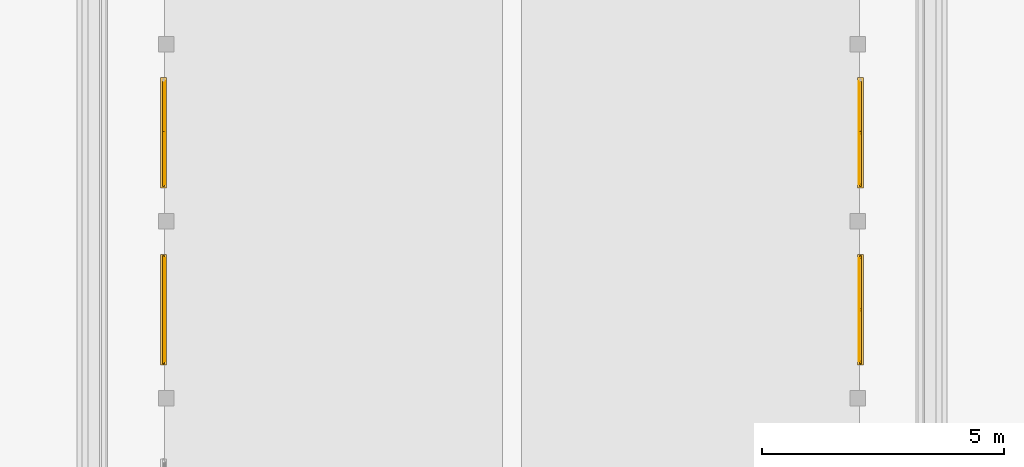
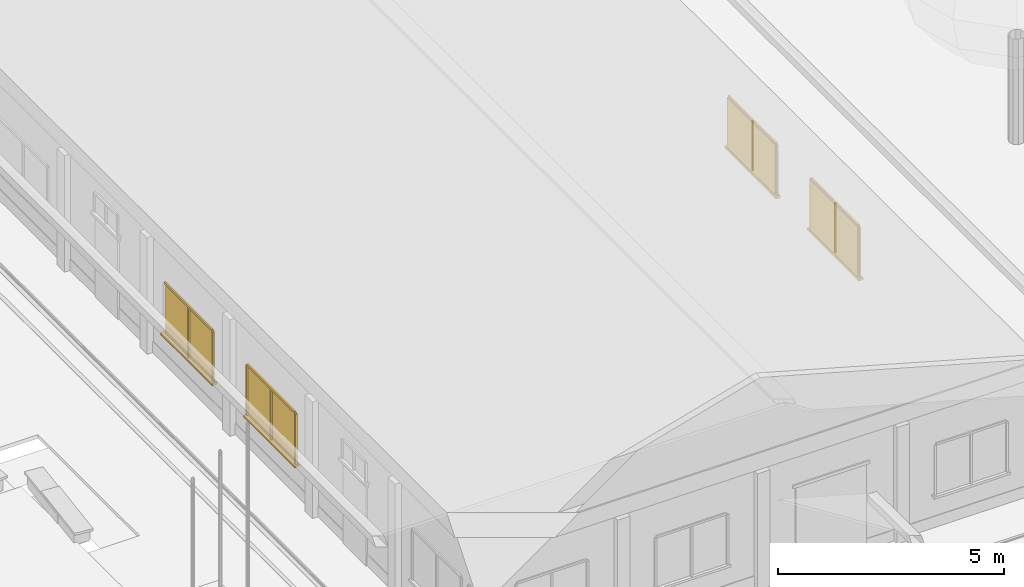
# One storey, part 54 of 177: 22 windows.
"""IFC4 building model written with IfcOpenShell, lengths in metres."""

from ifc_helpers import new_model, si_unit, origin, origin_with_axes, place, context, subcontext, project, spatial, triangles, element, save


model = new_model("IFC4")

# Units and contexts
model_context = context("Model", 3, precision=1e-05, world=origin_with_axes())
body_context = subcontext(model_context, "Body", "Model", "MODEL_VIEW")
ifc_project = project(units=[si_unit("LENGTHUNIT", "METRE"), si_unit("AREAUNIT", "SQUARE_METRE"), si_unit("VOLUMEUNIT", "CUBIC_METRE"), si_unit("PLANEANGLEUNIT", "RADIAN")], contexts=[model_context])

# Site, building, storey
site_placement = place(None, origin_with_axes())
site = spatial("IfcSite", under=ifc_project, at=site_placement, Name="Predio Los Mangos - Morales, San Martín", CompositionType="ELEMENT")
building_placement = place(site_placement, origin())
building = spatial("IfcBuilding", under=site, at=building_placement, Name="Hogar de Refugio Temporal", CompositionType="ELEMENT")
storey_placement = place(building_placement, origin())
storey = spatial("IfcBuildingStorey", under=building, at=storey_placement, Name="NIVEL 1 (NPT +0.00)", CompositionType="ELEMENT", Elevation=0.0)

# Windows
window_1_placement = place(storey_placement, origin())
element("IfcWindow", 1, at=window_1_placement, inside=storey, Name="E-05_v2_vid", ObjectType="Ventana", PredefinedType="WINDOW", context=body_context, shape_type="Tessellation", body=[
    triangles([(45.26, 65.9941, 1.05), (45.28, 65.9941, 1.05), (45.28, 68.1184, 1.05), (45.26, 68.1184, 1.05), (45.26, 65.9941, 2.4), (45.28, 65.9941, 2.4), (45.28, 68.1184, 2.4), (45.26, 68.1184, 2.4)], [[1, 4, 3], [1, 3, 2], [5, 6, 7], [5, 7, 8], [1, 2, 6], [1, 6, 5], [2, 3, 7], [2, 7, 6], [3, 4, 8], [3, 8, 7], [4, 1, 5], [4, 5, 8]]),
])
window_2_placement = place(storey_placement, origin())
element("IfcWindow", 2, at=window_2_placement, inside=storey, Name="E-05_v2_m", ObjectType="Ventana", PredefinedType="WINDOW", context=body_context, shape_type="Tessellation", body=[
    triangles([(45.22, 65.9441, 1.05), (45.26, 65.9441, 1.05), (45.26, 65.9941, 1.05), (45.22, 65.9941, 1.05), (45.22, 65.9441, 2.4), (45.26, 65.9441, 2.4), (45.26, 65.9941, 2.4), (45.22, 65.9941, 2.4)], [[1, 4, 3], [1, 3, 2], [5, 6, 7], [5, 7, 8], [1, 2, 6], [1, 6, 5], [2, 3, 7], [2, 7, 6], [3, 4, 8], [3, 8, 7], [4, 1, 5], [4, 5, 8]]),
])
window_3_placement = place(storey_placement, origin())
element("IfcWindow", 3, at=window_3_placement, inside=storey, Name="E-05_v2_m", ObjectType="Ventana", PredefinedType="WINDOW", context=body_context, shape_type="Tessellation", body=[
    triangles([(45.22, 68.1184, 1.05), (45.26, 68.1184, 1.05), (45.26, 68.1684, 1.05), (45.22, 68.1684, 1.05), (45.22, 68.1184, 2.4), (45.26, 68.1184, 2.4), (45.26, 68.1684, 2.4), (45.22, 68.1684, 2.4)], [[1, 4, 3], [1, 3, 2], [5, 6, 7], [5, 7, 8], [1, 2, 6], [1, 6, 5], [2, 3, 7], [2, 7, 6], [3, 4, 8], [3, 8, 7], [4, 1, 5], [4, 5, 8]]),
])
window_4_placement = place(storey_placement, origin())
element("IfcWindow", 4, at=window_4_placement, inside=storey, Name="E-05_v2_m", ObjectType="Ventana", PredefinedType="WINDOW", context=body_context, shape_type="Tessellation", body=[
    triangles([(45.22, 65.9941, 2.4), (45.26, 65.9941, 2.4), (45.26, 68.1184, 2.4), (45.22, 68.1184, 2.4), (45.22, 65.9941, 2.45), (45.26, 65.9941, 2.45), (45.26, 68.1184, 2.45), (45.22, 68.1184, 2.45)], [[1, 4, 3], [1, 3, 2], [5, 6, 7], [5, 7, 8], [1, 2, 6], [1, 6, 5], [2, 3, 7], [2, 7, 6], [3, 4, 8], [3, 8, 7], [4, 1, 5], [4, 5, 8]]),
])
window_5_placement = place(storey_placement, origin())
element("IfcWindow", 5, at=window_5_placement, inside=storey, Name="E-05_v2_m", ObjectType="Ventana", PredefinedType="WINDOW", context=body_context, shape_type="Tessellation", body=[
    triangles([(45.22, 67.0312, 1.05), (45.26, 67.0312, 1.05), (45.26, 67.0813, 1.05), (45.22, 67.0813, 1.05), (45.22, 67.0312, 2.4), (45.26, 67.0312, 2.4), (45.26, 67.0813, 2.4), (45.22, 67.0813, 2.4)], [[1, 4, 3], [1, 3, 2], [5, 6, 7], [5, 7, 8], [1, 2, 6], [1, 6, 5], [2, 3, 7], [2, 7, 6], [3, 4, 8], [3, 8, 7], [4, 1, 5], [4, 5, 8]]),
])
window_6_placement = place(storey_placement, origin())
element("IfcWindow", 6, at=window_6_placement, inside=storey, Name="E-05_v2_alf", ObjectType="Ventana", PredefinedType="WINDOW", context=body_context, shape_type="Tessellation", body=[
    triangles([(45.3, 65.9141, 0.99), (45.18, 65.9141, 0.99), (45.18, 68.1984, 0.99), (45.3, 68.1984, 0.99), (45.3, 65.9141, 1.05), (45.18, 65.9141, 1.05), (45.18, 68.1984, 1.05), (45.3, 68.1984, 1.05)], [[1, 4, 3], [1, 3, 2], [5, 6, 7], [5, 7, 8], [1, 2, 6], [1, 6, 5], [2, 3, 7], [2, 7, 6], [3, 4, 8], [3, 8, 7], [4, 1, 5], [4, 5, 8]]),
])
window_7_placement = place(storey_placement, origin())
element("IfcWindow", 7, at=window_7_placement, inside=storey, Name="E-05_v3_vid", ObjectType="Ventana", PredefinedType="WINDOW", context=body_context, shape_type="Tessellation", body=[
    triangles([(45.26, 69.6566, 1.05), (45.28, 69.6566, 1.05), (45.28, 71.7809, 1.05), (45.26, 71.7809, 1.05), (45.26, 69.6566, 2.4), (45.28, 69.6566, 2.4), (45.28, 71.7809, 2.4), (45.26, 71.7809, 2.4)], [[1, 4, 3], [1, 3, 2], [5, 6, 7], [5, 7, 8], [1, 2, 6], [1, 6, 5], [2, 3, 7], [2, 7, 6], [3, 4, 8], [3, 8, 7], [4, 1, 5], [4, 5, 8]]),
])
window_8_placement = place(storey_placement, origin())
element("IfcWindow", 8, at=window_8_placement, inside=storey, Name="E-05_v3_m", ObjectType="Ventana", PredefinedType="WINDOW", context=body_context, shape_type="Tessellation", body=[
    triangles([(45.22, 69.6066, 1.05), (45.26, 69.6066, 1.05), (45.26, 69.6566, 1.05), (45.22, 69.6566, 1.05), (45.22, 69.6066, 2.4), (45.26, 69.6066, 2.4), (45.26, 69.6566, 2.4), (45.22, 69.6566, 2.4)], [[1, 4, 3], [1, 3, 2], [5, 6, 7], [5, 7, 8], [1, 2, 6], [1, 6, 5], [2, 3, 7], [2, 7, 6], [3, 4, 8], [3, 8, 7], [4, 1, 5], [4, 5, 8]]),
])
window_9_placement = place(storey_placement, origin())
element("IfcWindow", 9, at=window_9_placement, inside=storey, Name="E-05_v3_m", ObjectType="Ventana", PredefinedType="WINDOW", context=body_context, shape_type="Tessellation", body=[
    triangles([(45.22, 69.6566, 2.4), (45.26, 69.6566, 2.4), (45.26, 71.7809, 2.4), (45.22, 71.7809, 2.4), (45.22, 69.6566, 2.45), (45.26, 69.6566, 2.45), (45.26, 71.7809, 2.45), (45.22, 71.7809, 2.45)], [[1, 4, 3], [1, 3, 2], [5, 6, 7], [5, 7, 8], [1, 2, 6], [1, 6, 5], [2, 3, 7], [2, 7, 6], [3, 4, 8], [3, 8, 7], [4, 1, 5], [4, 5, 8]]),
])
window_10_placement = place(storey_placement, origin())
element("IfcWindow", 10, at=window_10_placement, inside=storey, Name="E-05_v3_m", ObjectType="Ventana", PredefinedType="WINDOW", context=body_context, shape_type="Tessellation", body=[
    triangles([(45.22, 70.6937, 1.05), (45.26, 70.6937, 1.05), (45.26, 70.7438, 1.05), (45.22, 70.7438, 1.05), (45.22, 70.6937, 2.4), (45.26, 70.6937, 2.4), (45.26, 70.7438, 2.4), (45.22, 70.7438, 2.4)], [[1, 4, 3], [1, 3, 2], [5, 6, 7], [5, 7, 8], [1, 2, 6], [1, 6, 5], [2, 3, 7], [2, 7, 6], [3, 4, 8], [3, 8, 7], [4, 1, 5], [4, 5, 8]]),
])
window_11_placement = place(storey_placement, origin())
element("IfcWindow", 11, at=window_11_placement, inside=storey, Name="E-05_v3_alf", ObjectType="Ventana", PredefinedType="WINDOW", context=body_context, shape_type="Tessellation", body=[
    triangles([(45.3, 69.5766, 0.99), (45.18, 69.5766, 0.99), (45.18, 71.8609, 0.99), (45.3, 71.8609, 0.99), (45.3, 69.5766, 1.05), (45.18, 69.5766, 1.05), (45.18, 71.8609, 1.05), (45.3, 71.8609, 1.05)], [[1, 4, 3], [1, 3, 2], [5, 6, 7], [5, 7, 8], [1, 2, 6], [1, 6, 5], [2, 3, 7], [2, 7, 6], [3, 4, 8], [3, 8, 7], [4, 1, 5], [4, 5, 8]]),
])
window_12_placement = place(storey_placement, origin())
element("IfcWindow", 12, at=window_12_placement, inside=storey, Name="E-05_v2_vid", ObjectType="Ventana", PredefinedType="WINDOW", context=body_context, shape_type="Tessellation", body=[
    triangles([(59.62, 65.9941, 1.05), (59.64, 65.9941, 1.05), (59.64, 68.1184, 1.05), (59.62, 68.1184, 1.05), (59.62, 65.9941, 2.4), (59.64, 65.9941, 2.4), (59.64, 68.1184, 2.4), (59.62, 68.1184, 2.4)], [[1, 4, 3], [1, 3, 2], [5, 6, 7], [5, 7, 8], [1, 2, 6], [1, 6, 5], [2, 3, 7], [2, 7, 6], [3, 4, 8], [3, 8, 7], [4, 1, 5], [4, 5, 8]]),
])
window_13_placement = place(storey_placement, origin())
element("IfcWindow", 13, at=window_13_placement, inside=storey, Name="E-05_v2_m", ObjectType="Ventana", PredefinedType="WINDOW", context=body_context, shape_type="Tessellation", body=[
    triangles([(59.64, 65.9441, 1.05), (59.68, 65.9441, 1.05), (59.68, 65.9941, 1.05), (59.64, 65.9941, 1.05), (59.64, 65.9441, 2.4), (59.68, 65.9441, 2.4), (59.68, 65.9941, 2.4), (59.64, 65.9941, 2.4)], [[1, 4, 3], [1, 3, 2], [5, 6, 7], [5, 7, 8], [1, 2, 6], [1, 6, 5], [2, 3, 7], [2, 7, 6], [3, 4, 8], [3, 8, 7], [4, 1, 5], [4, 5, 8]]),
])
window_14_placement = place(storey_placement, origin())
element("IfcWindow", 14, at=window_14_placement, inside=storey, Name="E-05_v2_m", ObjectType="Ventana", PredefinedType="WINDOW", context=body_context, shape_type="Tessellation", body=[
    triangles([(59.64, 68.1184, 1.05), (59.68, 68.1184, 1.05), (59.68, 68.1684, 1.05), (59.64, 68.1684, 1.05), (59.64, 68.1184, 2.4), (59.68, 68.1184, 2.4), (59.68, 68.1684, 2.4), (59.64, 68.1684, 2.4)], [[1, 4, 3], [1, 3, 2], [5, 6, 7], [5, 7, 8], [1, 2, 6], [1, 6, 5], [2, 3, 7], [2, 7, 6], [3, 4, 8], [3, 8, 7], [4, 1, 5], [4, 5, 8]]),
])
window_15_placement = place(storey_placement, origin())
element("IfcWindow", 15, at=window_15_placement, inside=storey, Name="E-05_v2_m", ObjectType="Ventana", PredefinedType="WINDOW", context=body_context, shape_type="Tessellation", body=[
    triangles([(59.64, 65.9941, 2.4), (59.68, 65.9941, 2.4), (59.68, 68.1184, 2.4), (59.64, 68.1184, 2.4), (59.64, 65.9941, 2.45), (59.68, 65.9941, 2.45), (59.68, 68.1184, 2.45), (59.64, 68.1184, 2.45)], [[1, 4, 3], [1, 3, 2], [5, 6, 7], [5, 7, 8], [1, 2, 6], [1, 6, 5], [2, 3, 7], [2, 7, 6], [3, 4, 8], [3, 8, 7], [4, 1, 5], [4, 5, 8]]),
])
window_16_placement = place(storey_placement, origin())
element("IfcWindow", 16, at=window_16_placement, inside=storey, Name="E-05_v2_m", ObjectType="Ventana", PredefinedType="WINDOW", context=body_context, shape_type="Tessellation", body=[
    triangles([(59.64, 67.0312, 1.05), (59.68, 67.0312, 1.05), (59.68, 67.0813, 1.05), (59.64, 67.0813, 1.05), (59.64, 67.0312, 2.4), (59.68, 67.0312, 2.4), (59.68, 67.0813, 2.4), (59.64, 67.0813, 2.4)], [[1, 4, 3], [1, 3, 2], [5, 6, 7], [5, 7, 8], [1, 2, 6], [1, 6, 5], [2, 3, 7], [2, 7, 6], [3, 4, 8], [3, 8, 7], [4, 1, 5], [4, 5, 8]]),
])
window_17_placement = place(storey_placement, origin())
element("IfcWindow", 17, at=window_17_placement, inside=storey, Name="E-05_v2_alf", ObjectType="Ventana", PredefinedType="WINDOW", context=body_context, shape_type="Tessellation", body=[
    triangles([(59.6, 65.9141, 0.99), (59.72, 65.9141, 0.99), (59.72, 68.1984, 0.99), (59.6, 68.1984, 0.99), (59.6, 65.9141, 1.05), (59.72, 65.9141, 1.05), (59.72, 68.1984, 1.05), (59.6, 68.1984, 1.05)], [[1, 4, 3], [1, 3, 2], [5, 6, 7], [5, 7, 8], [1, 2, 6], [1, 6, 5], [2, 3, 7], [2, 7, 6], [3, 4, 8], [3, 8, 7], [4, 1, 5], [4, 5, 8]]),
])
window_18_placement = place(storey_placement, origin())
element("IfcWindow", 18, at=window_18_placement, inside=storey, Name="E-05_v3_vid", ObjectType="Ventana", PredefinedType="WINDOW", context=body_context, shape_type="Tessellation", body=[
    triangles([(59.62, 69.6566, 1.05), (59.64, 69.6566, 1.05), (59.64, 71.7809, 1.05), (59.62, 71.7809, 1.05), (59.62, 69.6566, 2.4), (59.64, 69.6566, 2.4), (59.64, 71.7809, 2.4), (59.62, 71.7809, 2.4)], [[1, 4, 3], [1, 3, 2], [5, 6, 7], [5, 7, 8], [1, 2, 6], [1, 6, 5], [2, 3, 7], [2, 7, 6], [3, 4, 8], [3, 8, 7], [4, 1, 5], [4, 5, 8]]),
])
window_19_placement = place(storey_placement, origin())
element("IfcWindow", 19, at=window_19_placement, inside=storey, Name="E-05_v3_m", ObjectType="Ventana", PredefinedType="WINDOW", context=body_context, shape_type="Tessellation", body=[
    triangles([(59.64, 69.6066, 1.05), (59.68, 69.6066, 1.05), (59.68, 69.6566, 1.05), (59.64, 69.6566, 1.05), (59.64, 69.6066, 2.4), (59.68, 69.6066, 2.4), (59.68, 69.6566, 2.4), (59.64, 69.6566, 2.4)], [[1, 4, 3], [1, 3, 2], [5, 6, 7], [5, 7, 8], [1, 2, 6], [1, 6, 5], [2, 3, 7], [2, 7, 6], [3, 4, 8], [3, 8, 7], [4, 1, 5], [4, 5, 8]]),
])
window_20_placement = place(storey_placement, origin())
element("IfcWindow", 20, at=window_20_placement, inside=storey, Name="E-05_v3_m", ObjectType="Ventana", PredefinedType="WINDOW", context=body_context, shape_type="Tessellation", body=[
    triangles([(59.64, 69.6566, 2.4), (59.68, 69.6566, 2.4), (59.68, 71.7809, 2.4), (59.64, 71.7809, 2.4), (59.64, 69.6566, 2.45), (59.68, 69.6566, 2.45), (59.68, 71.7809, 2.45), (59.64, 71.7809, 2.45)], [[1, 4, 3], [1, 3, 2], [5, 6, 7], [5, 7, 8], [1, 2, 6], [1, 6, 5], [2, 3, 7], [2, 7, 6], [3, 4, 8], [3, 8, 7], [4, 1, 5], [4, 5, 8]]),
])
window_21_placement = place(storey_placement, origin())
element("IfcWindow", 21, at=window_21_placement, inside=storey, Name="E-05_v3_m", ObjectType="Ventana", PredefinedType="WINDOW", context=body_context, shape_type="Tessellation", body=[
    triangles([(59.64, 70.6937, 1.05), (59.68, 70.6937, 1.05), (59.68, 70.7438, 1.05), (59.64, 70.7438, 1.05), (59.64, 70.6937, 2.4), (59.68, 70.6937, 2.4), (59.68, 70.7438, 2.4), (59.64, 70.7438, 2.4)], [[1, 4, 3], [1, 3, 2], [5, 6, 7], [5, 7, 8], [1, 2, 6], [1, 6, 5], [2, 3, 7], [2, 7, 6], [3, 4, 8], [3, 8, 7], [4, 1, 5], [4, 5, 8]]),
])
window_22_placement = place(storey_placement, origin())
element("IfcWindow", 22, at=window_22_placement, inside=storey, Name="E-05_v3_alf", ObjectType="Ventana", PredefinedType="WINDOW", context=body_context, shape_type="Tessellation", body=[
    triangles([(59.6, 69.5766, 0.99), (59.72, 69.5766, 0.99), (59.72, 71.8609, 0.99), (59.6, 71.8609, 0.99), (59.6, 69.5766, 1.05), (59.72, 69.5766, 1.05), (59.72, 71.8609, 1.05), (59.6, 71.8609, 1.05)], [[1, 4, 3], [1, 3, 2], [5, 6, 7], [5, 7, 8], [1, 2, 6], [1, 6, 5], [2, 3, 7], [2, 7, 6], [3, 4, 8], [3, 8, 7], [4, 1, 5], [4, 5, 8]]),
])

save(model, "model.ifc")
